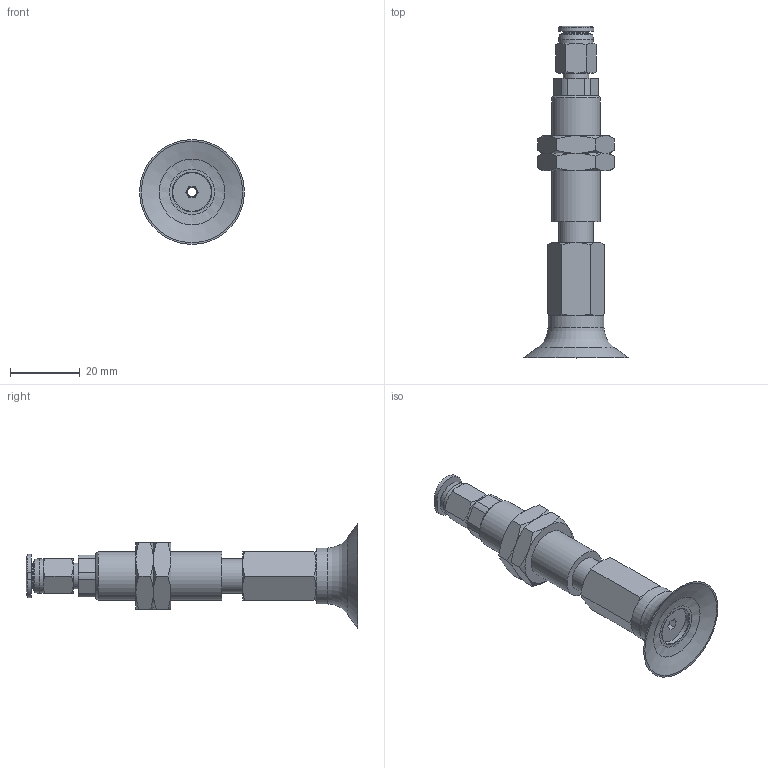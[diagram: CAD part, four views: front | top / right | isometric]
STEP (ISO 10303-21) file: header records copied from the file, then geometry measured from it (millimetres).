
FILE_DESCRIPTION(('STEP AP203'),'1');
FILE_NAME('-O.stp','2025-08-27T05:59:28',(' '),(' '),'Spatial InterOp 3D',' ',' ');
FILE_SCHEMA(('CONFIG_CONTROL_DESIGN'));
Length unit declared in the file: millimetre
Products named in the file (8): BNABPFTS-30-6-※-O; ADAPTER; NAPFTS-30-6-MBODY; TN-PF-30-M6-NAPF; Nut-30-6-s; NAPFTS-30-6-FBODY; BPFG-30-※; PC-C_06-M5
Assembly tree (8 placements, depth 2):
  BNABPFTS-30-6-※-O
    ADAPTER
    NAPFTS-30-6-MBODY
    TN-PF-30-M6-NAPF
    Nut-30-6-s  x2
    NAPFTS-30-6-FBODY
    BPFG-30-※
    PC-C_06-M5
Bounding box: 30 x 94.98 x 30 mm (x, y, z)
Volume: 14068.9 mm3; surface area: 12163.7 mm2
Topology: 7 solids, 10 shells, 180 faces, 374 edges, 225 vertices
Faces by surface type: plane 73, cone 62, cylinder 30, torus 7, bspline 5, revolution 3
Full cylindrical faces by diameter (mm): 3 x3, 4 x2, 4.134 x1, 4.917 x1, 5 x1, 6 x2, 7 x1, 7.4 x1, 8.2 x1, 10 x3, 11 x2, 12.917 x2, 14 x1, 16 x1
Entity records: 4793 total; most frequent: CARTESIAN_POINT 1348, DIRECTION 639, ORIENTED_EDGE 552, AXIS2_PLACEMENT_3D 279, EDGE_CURVE 278, EDGE_LOOP 226, VERTEX_POINT 192, FACE_OUTER_BOUND 126
